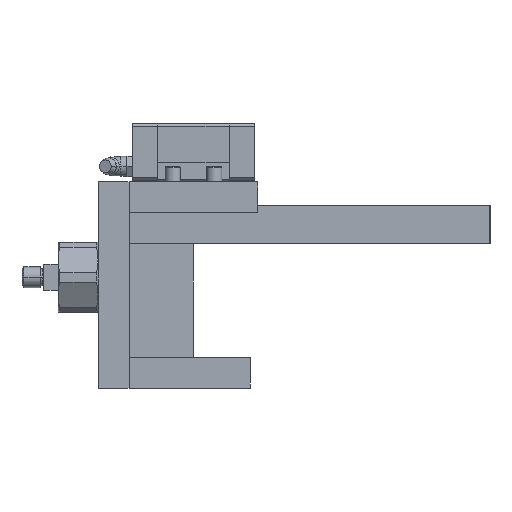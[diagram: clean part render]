
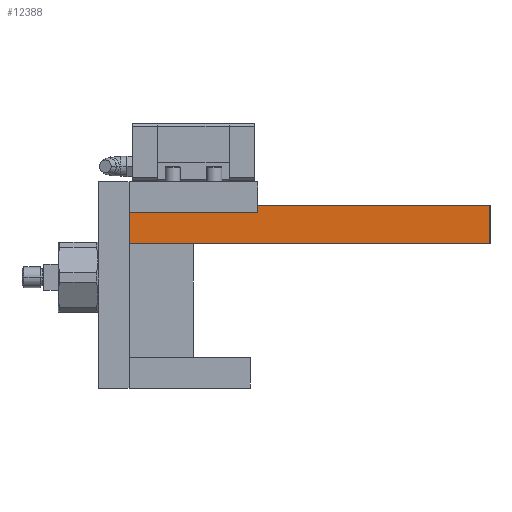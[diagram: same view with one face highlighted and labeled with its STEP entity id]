
A CAD part, front view. The second image highlights one B-rep face of the part: STEP entity #12388.
In plain terms, the highlighted planar face has unit normal (0, -1, 0).
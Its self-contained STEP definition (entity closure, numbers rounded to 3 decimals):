
#25 = EDGE_LOOP ( 'NONE', ( #23915, #24929, #3183, #779 ) ) ;
#779 = ORIENTED_EDGE ( 'NONE', *, *, #24471, .T. ) ;
#1515 = VERTEX_POINT ( 'NONE', #17191 ) ;
#1603 = CARTESIAN_POINT ( 'NONE',  ( 140., 0., 0. ) ) ;
#2418 = CARTESIAN_POINT ( 'NONE',  ( 0., 0., 0. ) ) ;
#3183 = ORIENTED_EDGE ( 'NONE', *, *, #12005, .T. ) ;
#3372 = VERTEX_POINT ( 'NONE', #14159 ) ;
#4318 = VECTOR ( 'NONE', #10510, 1000. ) ;
#6032 = DIRECTION ( 'NONE',  ( 0., -1., 0. ) ) ;
#7069 = AXIS2_PLACEMENT_3D ( 'NONE', #1603, #6032, #10026 ) ;
#7204 = VECTOR ( 'NONE', #10928, 1000. ) ;
#7285 = CARTESIAN_POINT ( 'NONE',  ( 140., 0., 0. ) ) ;
#7700 = VECTOR ( 'NONE', #21302, 1000. ) ;
#9921 = LINE ( 'NONE', #2418, #7204 ) ;
#10026 = DIRECTION ( 'NONE',  ( 0., 0., -1. ) ) ;
#10510 = DIRECTION ( 'NONE',  ( 1., 0., 0. ) ) ;
#10928 = DIRECTION ( 'NONE',  ( 0., 0., -1. ) ) ;
#12005 = EDGE_CURVE ( 'NONE', #18353, #1515, #18846, .T. ) ;
#12388 = ADVANCED_FACE ( 'NONE', ( #25901 ), #18320, .T. ) ;
#14159 = CARTESIAN_POINT ( 'NONE',  ( 140., 0., 0. ) ) ;
#14772 = CARTESIAN_POINT ( 'NONE',  ( 140., 0., 0. ) ) ;
#15511 = LINE ( 'NONE', #7285, #23305 ) ;
#15514 = LINE ( 'NONE', #14772, #4318 ) ;
#15674 = DIRECTION ( 'NONE',  ( 0., 0., -1. ) ) ;
#17191 = CARTESIAN_POINT ( 'NONE',  ( 0., 0., 15. ) ) ;
#18320 = PLANE ( 'NONE',  #7069 ) ;
#18353 = VERTEX_POINT ( 'NONE', #22330 ) ;
#18846 = LINE ( 'NONE', #19016, #7700 ) ;
#18993 = EDGE_CURVE ( 'NONE', #18353, #3372, #15511, .T. ) ;
#19016 = CARTESIAN_POINT ( 'NONE',  ( 140., 0., 15. ) ) ;
#19765 = VERTEX_POINT ( 'NONE', #23596 ) ;
#20312 = EDGE_CURVE ( 'NONE', #19765, #3372, #15514, .T. ) ;
#21302 = DIRECTION ( 'NONE',  ( -1., 0., 0. ) ) ;
#22330 = CARTESIAN_POINT ( 'NONE',  ( 140., 0., 15. ) ) ;
#23305 = VECTOR ( 'NONE', #15674, 1000. ) ;
#23596 = CARTESIAN_POINT ( 'NONE',  ( 0., 0., 0. ) ) ;
#23915 = ORIENTED_EDGE ( 'NONE', *, *, #20312, .T. ) ;
#24471 = EDGE_CURVE ( 'NONE', #1515, #19765, #9921, .T. ) ;
#24929 = ORIENTED_EDGE ( 'NONE', *, *, #18993, .F. ) ;
#25901 = FACE_OUTER_BOUND ( 'NONE', #25, .T. ) ;
